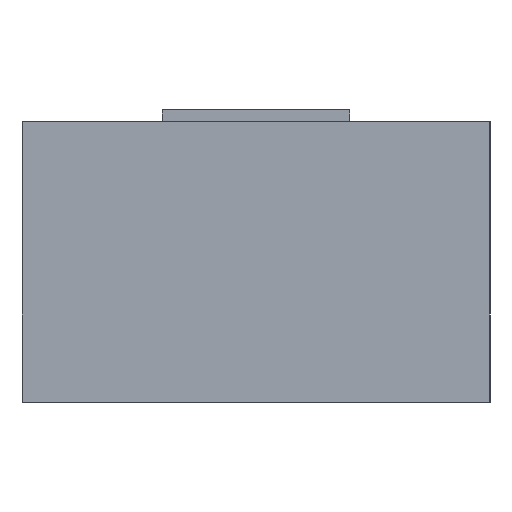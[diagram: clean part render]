
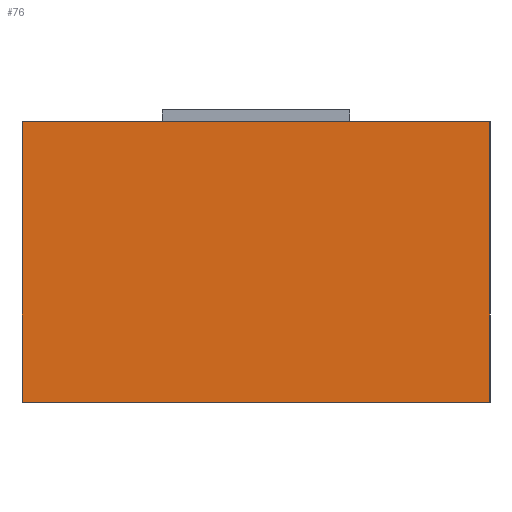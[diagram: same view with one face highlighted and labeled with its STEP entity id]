
A CAD part, left-side view. The second image highlights one B-rep face of the part: STEP entity #76.
In plain terms, the highlighted planar face has unit normal (-1, 0, 0).
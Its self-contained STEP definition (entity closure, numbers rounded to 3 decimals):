
#76=ADVANCED_FACE('',(#234),#236,.T.);
#234=FACE_BOUND('',#235,.T.);
#235=EDGE_LOOP('',(#364,#365,#366,#367,#368,#369));
#236=PLANE('',#237);
#237=AXIS2_PLACEMENT_3D('',#238,#239,#240);
#238=CARTESIAN_POINT('',(-3.,2.,0.));
#239=DIRECTION('',(-1.,0.,0.));
#240=DIRECTION('',(0.,-1.,0.));
#364=ORIENTED_EDGE('',*,*,#450,.F.);
#365=ORIENTED_EDGE('',*,*,#439,.F.);
#366=ORIENTED_EDGE('',*,*,#451,.F.);
#367=ORIENTED_EDGE('',*,*,#452,.T.);
#368=ORIENTED_EDGE('',*,*,#453,.T.);
#369=ORIENTED_EDGE('',*,*,#443,.F.);
#439=EDGE_CURVE('',#487,#489,#490,.T.);
#443=EDGE_CURVE('',#495,#497,#498,.T.);
#450=EDGE_CURVE('',#489,#495,#508,.F.);
#451=EDGE_CURVE('',#509,#487,#510,.T.);
#452=EDGE_CURVE('',#509,#511,#512,.T.);
#453=EDGE_CURVE('',#511,#497,#513,.T.);
#487=VERTEX_POINT('',#567);
#489=VERTEX_POINT('',#571);
#490=LINE('',#572,#573);
#495=VERTEX_POINT('',#583);
#497=VERTEX_POINT('',#587);
#498=LINE('',#588,#589);
#508=LINE('',#612,#613);
#509=VERTEX_POINT('',#615);
#510=LINE('',#616,#617);
#511=VERTEX_POINT('',#619);
#512=LINE('',#620,#621);
#513=LINE('',#623,#624);
#567=CARTESIAN_POINT('',(-3.,2.,2.4));
#571=CARTESIAN_POINT('',(-3.,0.8,2.4));
#572=CARTESIAN_POINT('',(-3.,2.,2.4));
#573=VECTOR('',#574,1.);
#574=DIRECTION('',(0.,-1.,0.));
#583=CARTESIAN_POINT('',(-3.,-0.8,2.4));
#587=CARTESIAN_POINT('',(-3.,-2.,2.4));
#588=CARTESIAN_POINT('',(-3.,-0.8,2.4));
#589=VECTOR('',#590,1.);
#590=DIRECTION('',(0.,-1.,0.));
#612=CARTESIAN_POINT('',(-3.,-0.8,2.4));
#613=VECTOR('',#614,1.);
#614=DIRECTION('',(0.,1.,0.));
#615=CARTESIAN_POINT('',(-3.,2.,0.));
#616=CARTESIAN_POINT('',(-3.,2.,0.));
#617=VECTOR('',#618,1.);
#618=DIRECTION('',(0.,0.,1.));
#619=CARTESIAN_POINT('',(-3.,-2.,0.));
#620=CARTESIAN_POINT('',(-3.,2.,0.));
#621=VECTOR('',#622,1.);
#622=DIRECTION('',(0.,-1.,0.));
#623=CARTESIAN_POINT('',(-3.,-2.,0.));
#624=VECTOR('',#625,1.);
#625=DIRECTION('',(0.,0.,1.));
